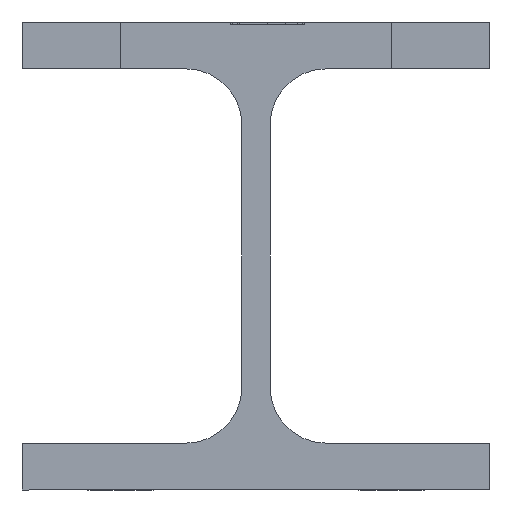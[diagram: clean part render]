
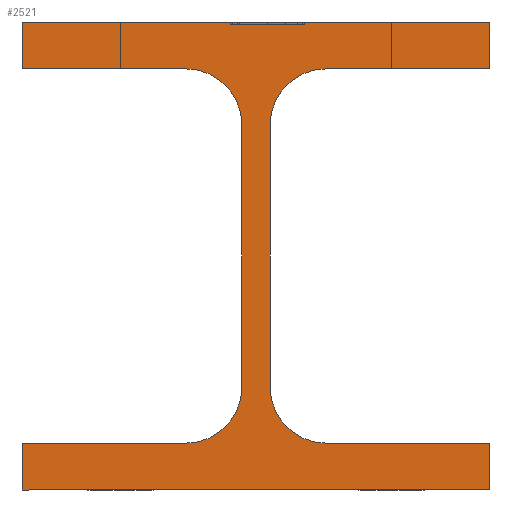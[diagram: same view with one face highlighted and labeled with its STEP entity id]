
A CAD part, left-side view. The second image highlights one B-rep face of the part: STEP entity #2521.
In plain terms, the highlighted planar face has unit normal (-1, 0, 0).
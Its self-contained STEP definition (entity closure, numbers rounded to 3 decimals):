
#4 = ORIENTED_EDGE ( 'NONE', *, *, #976, .T. ) ;
#6 = VECTOR ( 'NONE', #2301, 1000. ) ;
#11 = VERTEX_POINT ( 'NONE', #1790 ) ;
#17 = DIRECTION ( 'NONE',  ( 1., 0., 0. ) ) ;
#26 = DIRECTION ( 'NONE',  ( 1., 0., 0. ) ) ;
#102 = PLANE ( 'NONE',  #2712 ) ;
#103 = LINE ( 'NONE', #1105, #259 ) ;
#187 = LINE ( 'NONE', #3069, #6 ) ;
#201 = ORIENTED_EDGE ( 'NONE', *, *, #3078, .T. ) ;
#250 = DIRECTION ( 'NONE',  ( 0., 0., -1. ) ) ;
#259 = VECTOR ( 'NONE', #3006, 1000. ) ;
#301 = EDGE_CURVE ( 'NONE', #978, #2206, #103, .T. ) ;
#362 = CARTESIAN_POINT ( 'NONE',  ( -55., 3640., 2380. ) ) ;
#370 = EDGE_LOOP ( 'NONE', ( #1728, #1054, #2321, #2148, #2058, #507, #4, #827, #888, #2832, #1149, #389, #998, #694, #2131, #201 ) ) ;
#385 = EDGE_CURVE ( 'NONE', #1497, #1789, #187, .T. ) ;
#389 = ORIENTED_EDGE ( 'NONE', *, *, #1620, .T. ) ;
#431 = DIRECTION ( 'NONE',  ( 1., 0., 0. ) ) ;
#450 = VERTEX_POINT ( 'NONE', #2874 ) ;
#457 = CIRCLE ( 'NONE', #1648, 12. ) ;
#469 = CARTESIAN_POINT ( 'NONE',  ( -55., 3705., 2380. ) ) ;
#477 = EDGE_CURVE ( 'NONE', #2206, #1996, #457, .T. ) ;
#492 = DIRECTION ( 'NONE',  ( 0., 0., 1. ) ) ;
#504 = CARTESIAN_POINT ( 'NONE',  ( -55., 3640., 2300. ) ) ;
#506 = DIRECTION ( 'NONE',  ( 0., 0., 1. ) ) ;
#507 = ORIENTED_EDGE ( 'NONE', *, *, #1544, .T. ) ;
#511 = VECTOR ( 'NONE', #736, 1000. ) ;
#590 = LINE ( 'NONE', #1506, #2014 ) ;
#618 = VECTOR ( 'NONE', #2822, 1000. ) ;
#645 = CARTESIAN_POINT ( 'NONE',  ( -55., 3675., 2300. ) ) ;
#694 = ORIENTED_EDGE ( 'NONE', *, *, #477, .T. ) ;
#731 = VERTEX_POINT ( 'NONE', #2366 ) ;
#736 = DIRECTION ( 'NONE',  ( 0., -1., 0. ) ) ;
#769 = CARTESIAN_POINT ( 'NONE',  ( -55., 3740., 2300. ) ) ;
#783 = EDGE_CURVE ( 'NONE', #1785, #1293, #1358, .T. ) ;
#786 = DIRECTION ( 'NONE',  ( 0., 0., 1. ) ) ;
#813 = AXIS2_PLACEMENT_3D ( 'NONE', #2190, #26, #506 ) ;
#827 = ORIENTED_EDGE ( 'NONE', *, *, #1658, .T. ) ;
#869 = FACE_OUTER_BOUND ( 'NONE', #370, .T. ) ;
#888 = ORIENTED_EDGE ( 'NONE', *, *, #385, .T. ) ;
#892 = CARTESIAN_POINT ( 'NONE',  ( -55., 3675., 2300. ) ) ;
#919 = VECTOR ( 'NONE', #3031, 1000. ) ;
#922 = CARTESIAN_POINT ( 'NONE',  ( -55., 3693., 2312. ) ) ;
#925 = CARTESIAN_POINT ( 'NONE',  ( -55., 3640., 2300. ) ) ;
#956 = DIRECTION ( 'NONE',  ( 1., 0., 0. ) ) ;
#971 = DIRECTION ( 'NONE',  ( 0., 0., 1. ) ) ;
#976 = EDGE_CURVE ( 'NONE', #450, #1967, #2673, .T. ) ;
#978 = VERTEX_POINT ( 'NONE', #2367 ) ;
#998 = ORIENTED_EDGE ( 'NONE', *, *, #301, .T. ) ;
#1054 = ORIENTED_EDGE ( 'NONE', *, *, #2820, .T. ) ;
#1055 = DIRECTION ( 'NONE',  ( 0., 0., 1. ) ) ;
#1059 = VERTEX_POINT ( 'NONE', #769 ) ;
#1105 = CARTESIAN_POINT ( 'NONE',  ( -55., 3693., 2312. ) ) ;
#1112 = AXIS2_PLACEMENT_3D ( 'NONE', #2567, #431, #1380 ) ;
#1129 = LINE ( 'NONE', #645, #919 ) ;
#1148 = DIRECTION ( 'NONE',  ( 0., 0., 1. ) ) ;
#1149 = ORIENTED_EDGE ( 'NONE', *, *, #2191, .T. ) ;
#1179 = CARTESIAN_POINT ( 'NONE',  ( -55., 3687., 2368. ) ) ;
#1187 = CARTESIAN_POINT ( 'NONE',  ( -55., 3740., 2290. ) ) ;
#1229 = LINE ( 'NONE', #2386, #2108 ) ;
#1293 = VERTEX_POINT ( 'NONE', #2881 ) ;
#1322 = DIRECTION ( 'NONE',  ( -1., 0., 0. ) ) ;
#1357 = VERTEX_POINT ( 'NONE', #1679 ) ;
#1358 = CIRCLE ( 'NONE', #2900, 12. ) ;
#1380 = DIRECTION ( 'NONE',  ( 0., 0., 1. ) ) ;
#1420 = CARTESIAN_POINT ( 'NONE',  ( -55., 3740., 2380. ) ) ;
#1470 = DIRECTION ( 'NONE',  ( 0., -1., 0. ) ) ;
#1495 = EDGE_CURVE ( 'NONE', #1293, #731, #2828, .T. ) ;
#1497 = VERTEX_POINT ( 'NONE', #2540 ) ;
#1506 = CARTESIAN_POINT ( 'NONE',  ( -55., 3740., 2300. ) ) ;
#1544 = EDGE_CURVE ( 'NONE', #731, #450, #1755, .T. ) ;
#1620 = EDGE_CURVE ( 'NONE', #11, #978, #2155, .T. ) ;
#1648 = AXIS2_PLACEMENT_3D ( 'NONE', #2922, #956, #786 ) ;
#1658 = EDGE_CURVE ( 'NONE', #1967, #1497, #1229, .T. ) ;
#1679 = CARTESIAN_POINT ( 'NONE',  ( -55., 3640., 2290. ) ) ;
#1728 = ORIENTED_EDGE ( 'NONE', *, *, #2556, .T. ) ;
#1755 = CIRCLE ( 'NONE', #1112, 12. ) ;
#1760 = VECTOR ( 'NONE', #2402, 1000. ) ;
#1785 = VERTEX_POINT ( 'NONE', #892 ) ;
#1789 = VERTEX_POINT ( 'NONE', #2782 ) ;
#1790 = CARTESIAN_POINT ( 'NONE',  ( -55., 3705., 2380. ) ) ;
#1799 = VERTEX_POINT ( 'NONE', #925 ) ;
#1800 = DIRECTION ( 'NONE',  ( 0., 1., 0. ) ) ;
#1870 = LINE ( 'NONE', #1420, #618 ) ;
#1887 = LINE ( 'NONE', #504, #1760 ) ;
#1897 = LINE ( 'NONE', #469, #2952 ) ;
#1899 = CARTESIAN_POINT ( 'NONE',  ( -55., 3640., 2380. ) ) ;
#1904 = CARTESIAN_POINT ( 'NONE',  ( -55., 3740., 2380. ) ) ;
#1967 = VERTEX_POINT ( 'NONE', #362 ) ;
#1996 = VERTEX_POINT ( 'NONE', #2687 ) ;
#2014 = VECTOR ( 'NONE', #1800, 1000. ) ;
#2022 = CARTESIAN_POINT ( 'NONE',  ( -55., 3640., 2290. ) ) ;
#2058 = ORIENTED_EDGE ( 'NONE', *, *, #1495, .T. ) ;
#2059 = VECTOR ( 'NONE', #1148, 1000. ) ;
#2068 = VECTOR ( 'NONE', #250, 1000. ) ;
#2103 = EDGE_CURVE ( 'NONE', #1789, #2761, #1870, .T. ) ;
#2108 = VECTOR ( 'NONE', #492, 1000. ) ;
#2131 = ORIENTED_EDGE ( 'NONE', *, *, #2459, .T. ) ;
#2148 = ORIENTED_EDGE ( 'NONE', *, *, #783, .T. ) ;
#2153 = CARTESIAN_POINT ( 'NONE',  ( -55., 3675., 2312. ) ) ;
#2155 = CIRCLE ( 'NONE', #813, 12. ) ;
#2181 = VERTEX_POINT ( 'NONE', #1187 ) ;
#2190 = CARTESIAN_POINT ( 'NONE',  ( -55., 3705., 2368. ) ) ;
#2191 = EDGE_CURVE ( 'NONE', #2761, #11, #1897, .T. ) ;
#2206 = VERTEX_POINT ( 'NONE', #922 ) ;
#2286 = LINE ( 'NONE', #2022, #2405 ) ;
#2301 = DIRECTION ( 'NONE',  ( 0., 1., 0. ) ) ;
#2321 = ORIENTED_EDGE ( 'NONE', *, *, #3038, .T. ) ;
#2366 = CARTESIAN_POINT ( 'NONE',  ( -55., 3687., 2368. ) ) ;
#2367 = CARTESIAN_POINT ( 'NONE',  ( -55., 3693., 2368. ) ) ;
#2380 = CARTESIAN_POINT ( 'NONE',  ( -55., 3740., 2290. ) ) ;
#2386 = CARTESIAN_POINT ( 'NONE',  ( -55., 3640., 2390. ) ) ;
#2402 = DIRECTION ( 'NONE',  ( 0., 0., 1. ) ) ;
#2405 = VECTOR ( 'NONE', #2454, 1000. ) ;
#2454 = DIRECTION ( 'NONE',  ( 0., -1., 0. ) ) ;
#2459 = EDGE_CURVE ( 'NONE', #1996, #1059, #590, .T. ) ;
#2521 = ADVANCED_FACE ( 'NONE', ( #869 ), #102, .T. ) ;
#2540 = CARTESIAN_POINT ( 'NONE',  ( -55., 3640., 2390. ) ) ;
#2556 = EDGE_CURVE ( 'NONE', #2181, #1357, #2286, .T. ) ;
#2567 = CARTESIAN_POINT ( 'NONE',  ( -55., 3675., 2368. ) ) ;
#2622 = LINE ( 'NONE', #2380, #2068 ) ;
#2673 = LINE ( 'NONE', #1899, #511 ) ;
#2687 = CARTESIAN_POINT ( 'NONE',  ( -55., 3705., 2300. ) ) ;
#2712 = AXIS2_PLACEMENT_3D ( 'NONE', #2971, #1322, #1055 ) ;
#2761 = VERTEX_POINT ( 'NONE', #1904 ) ;
#2782 = CARTESIAN_POINT ( 'NONE',  ( -55., 3740., 2390. ) ) ;
#2820 = EDGE_CURVE ( 'NONE', #1357, #1799, #1887, .T. ) ;
#2822 = DIRECTION ( 'NONE',  ( 0., 0., -1. ) ) ;
#2828 = LINE ( 'NONE', #1179, #2059 ) ;
#2832 = ORIENTED_EDGE ( 'NONE', *, *, #2103, .T. ) ;
#2874 = CARTESIAN_POINT ( 'NONE',  ( -55., 3675., 2380. ) ) ;
#2881 = CARTESIAN_POINT ( 'NONE',  ( -55., 3687., 2312. ) ) ;
#2900 = AXIS2_PLACEMENT_3D ( 'NONE', #2153, #17, #971 ) ;
#2922 = CARTESIAN_POINT ( 'NONE',  ( -55., 3705., 2312. ) ) ;
#2952 = VECTOR ( 'NONE', #1470, 1000. ) ;
#2971 = CARTESIAN_POINT ( 'NONE',  ( -55., 2819., 2385. ) ) ;
#3006 = DIRECTION ( 'NONE',  ( 0., 0., -1. ) ) ;
#3031 = DIRECTION ( 'NONE',  ( 0., 1., 0. ) ) ;
#3038 = EDGE_CURVE ( 'NONE', #1799, #1785, #1129, .T. ) ;
#3069 = CARTESIAN_POINT ( 'NONE',  ( -55., 3740., 2390. ) ) ;
#3078 = EDGE_CURVE ( 'NONE', #1059, #2181, #2622, .T. ) ;
